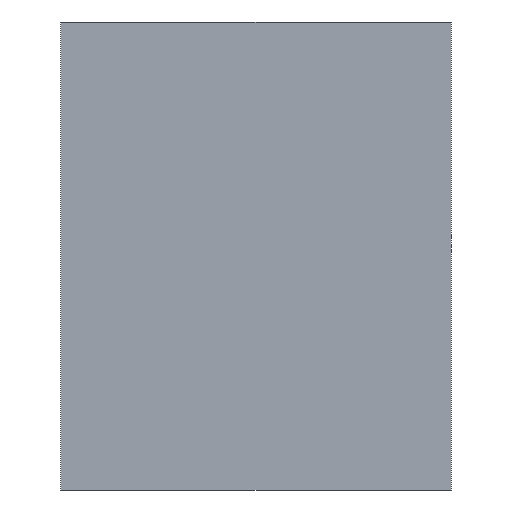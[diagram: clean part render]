
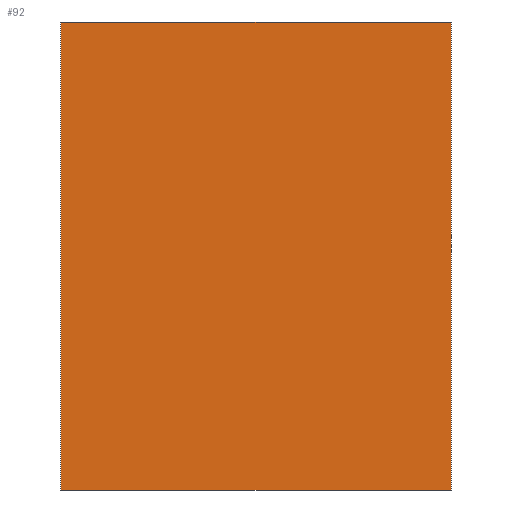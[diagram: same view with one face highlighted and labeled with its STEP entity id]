
A CAD part, top view. The second image highlights one B-rep face of the part: STEP entity #92.
In plain terms, the highlighted planar face has unit normal (0, 0, 1).
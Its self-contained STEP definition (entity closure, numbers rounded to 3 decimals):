
#53=CARTESIAN_POINT('Axis2P3D Location',(0.,0.,0.)) ;
#58=CARTESIAN_POINT('Line Origine',(50.5,0.,0.)) ;
#62=CARTESIAN_POINT('Vertex',(0.,0.,0.)) ;
#64=CARTESIAN_POINT('Vertex',(101.,0.,0.)) ;
#67=CARTESIAN_POINT('Line Origine',(101.,60.5,0.)) ;
#71=CARTESIAN_POINT('Vertex',(101.,121.,0.)) ;
#74=CARTESIAN_POINT('Line Origine',(50.5,121.,0.)) ;
#78=CARTESIAN_POINT('Vertex',(0.,121.,0.)) ;
#81=CARTESIAN_POINT('Line Origine',(0.,60.5,0.)) ;
#54=DIRECTION('Axis2P3D Direction',(0.,0.,1.)) ;
#55=DIRECTION('Axis2P3D XDirection',(1.,0.,0.)) ;
#59=DIRECTION('Vector Direction',(1.,0.,0.)) ;
#68=DIRECTION('Vector Direction',(0.,1.,0.)) ;
#75=DIRECTION('Vector Direction',(-1.,0.,0.)) ;
#82=DIRECTION('Vector Direction',(0.,-1.,0.)) ;
#56=AXIS2_PLACEMENT_3D('Plane Axis2P3D',#53,#54,#55) ;
#87=ORIENTED_EDGE('',*,*,#66,.T.) ;
#88=ORIENTED_EDGE('',*,*,#73,.T.) ;
#89=ORIENTED_EDGE('',*,*,#80,.T.) ;
#90=ORIENTED_EDGE('',*,*,#85,.T.) ;
#60=VECTOR('Line Direction',#59,1.) ;
#69=VECTOR('Line Direction',#68,1.) ;
#76=VECTOR('Line Direction',#75,1.) ;
#83=VECTOR('Line Direction',#82,1.) ;
#92=ADVANCED_FACE('Fill.1',(#91),#57,.T.) ;
#66=EDGE_CURVE('',#63,#65,#61,.T.) ;
#73=EDGE_CURVE('',#65,#72,#70,.T.) ;
#80=EDGE_CURVE('',#72,#79,#77,.T.) ;
#85=EDGE_CURVE('',#79,#63,#84,.T.) ;
#86=EDGE_LOOP('',(#87,#88,#89,#90)) ;
#91=FACE_OUTER_BOUND('',#86,.T.) ;
#61=LINE('Line',#58,#60) ;
#70=LINE('Line',#67,#69) ;
#77=LINE('Line',#74,#76) ;
#84=LINE('Line',#81,#83) ;
#57=PLANE('',#56) ;
#63=VERTEX_POINT('',#62) ;
#65=VERTEX_POINT('',#64) ;
#72=VERTEX_POINT('',#71) ;
#79=VERTEX_POINT('',#78) ;
